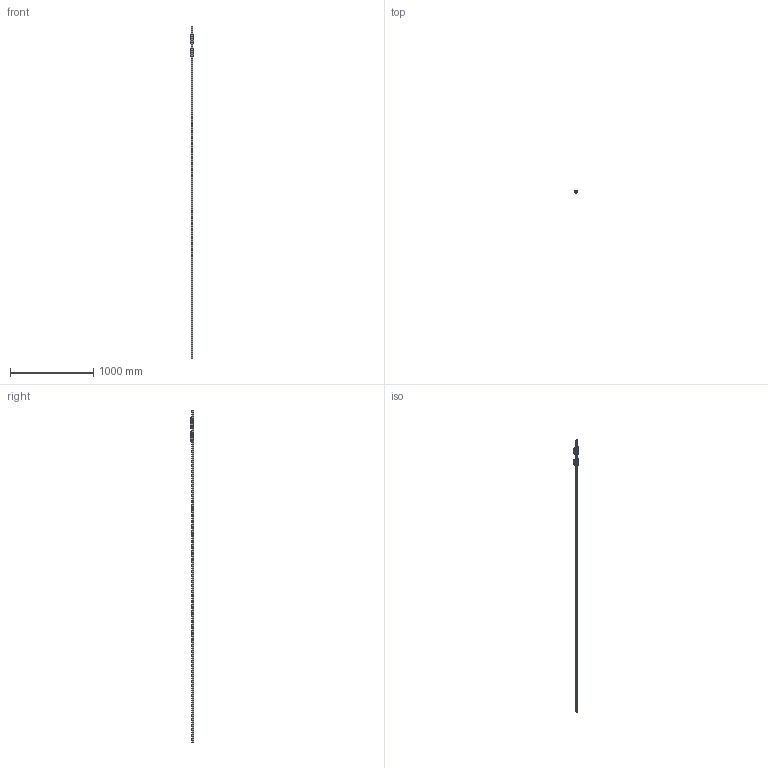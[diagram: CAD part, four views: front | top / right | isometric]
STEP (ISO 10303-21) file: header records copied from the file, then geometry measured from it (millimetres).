
FILE_DESCRIPTION((''),'2;1');
FILE_NAME('BRS25-LR_CUSTOMER_ASM_1_ASM_ASM','2020-11-24T14:47:15',('TWVS2025'),(''),'CREO PARAMETRIC BY PTC INC, 2018420','CREO PARAMETRIC BY PTC INC, 2018420','');
FILE_SCHEMA(('CONFIG_CONTROL_DESIGN'));
Products named in the file (5): BRR25_CUSTOMER_1_1_1_2_3_4_5; BC-BRC25-LR_ASM_1_1; BC-BRD25-LR_ASM_ASM_1_ASM; BRS25-LR_CUSTOMER_ASM_1_ASM_1_ASM; BRS25-LR_CUSTOMER_ASM_1_ASM_ASM
Assembly tree (4 placements, depth 3):
  BRS25-LR_CUSTOMER_ASM_1_ASM_ASM
    BRS25-LR_CUSTOMER_ASM_1_ASM_1_ASM
      BRR25_CUSTOMER_1_1_1_2_3_4_5
      BC-BRC25-LR_ASM_1_1
      BC-BRD25-LR_ASM_ASM_1_ASM
Bounding box: 47.95 x 40 x 4000 mm (x, y, z)
Volume: 1799575.4 mm3; surface area: 504890.2 mm2
Topology: 2 solids, 28 shells, 4835 faces, 13826 edges, 9176 vertices
Faces by surface type: plane 2696, cylinder 1353, bspline 240, sphere 204, cone 192, torus 150
Entity records: 223848 total; most frequent: CARTESIAN_POINT 99862, ORIENTED_EDGE 27385, DIRECTION 23467, EDGE_CURVE 13742, VERTEX_POINT 9167, VECTOR 8261, LINE 8261, AXIS2_PLACEMENT_3D 7603
